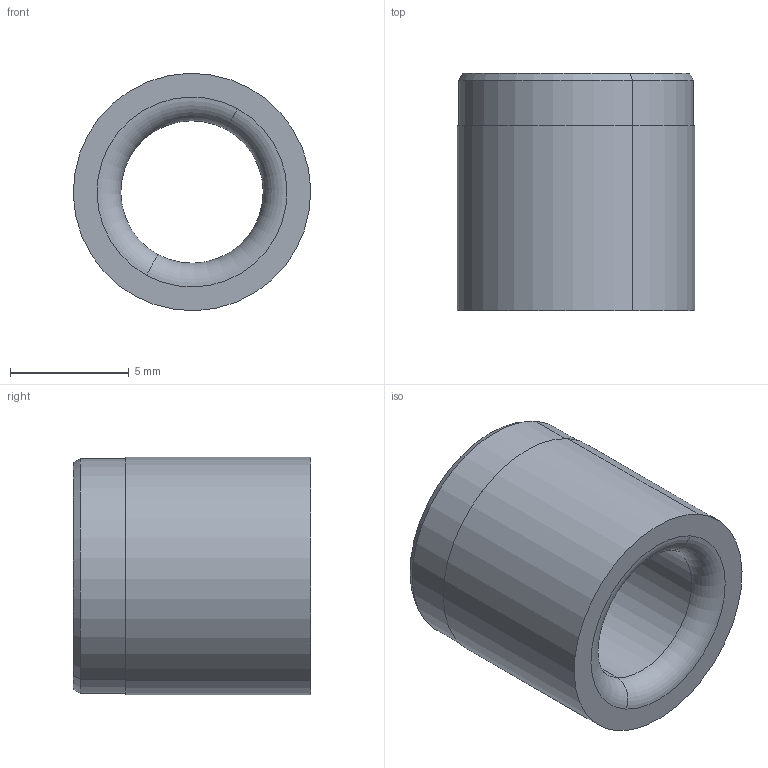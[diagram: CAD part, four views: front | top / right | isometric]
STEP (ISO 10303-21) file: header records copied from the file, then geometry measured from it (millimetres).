
FILE_DESCRIPTION(('CATIA V5 STEP Exchange'),'2;1');
FILE_NAME('D:\すぐ消す\NABEYA_L_PIN_最終_V519\NABEYA_L_PIN_最終_V519\NABEYA_2012_06_12\ブッシュ\NS-KB-6x10.stp','2016-02-18T04:32:59+00:00',('none'),('none'),'CATIA Version 5 Release 21 SP 4 (IN-10)','CATIA V5 STEP AP203','none');
FILE_SCHEMA(('CONFIG_CONTROL_DESIGN'));
Length unit declared in the file: millimetre
Products named in the file (1): NS-KB-6x10
Bounding box: 10 x 10 x 10 mm (x, y, z)
Volume: 494.1 mm3; surface area: 590.8 mm2
Topology: 1 solids, 1 shells, 13 faces, 26 edges, 16 vertices
Faces by surface type: cylinder 6, plane 3, torus 2, cone 2
Entity records: 363 total; most frequent: CARTESIAN_POINT 54, ORIENTED_EDGE 52, DIRECTION 48, AXIS2_PLACEMENT_3D 30, EDGE_CURVE 26, CIRCLE 18, EDGE_LOOP 16, VERTEX_POINT 16
